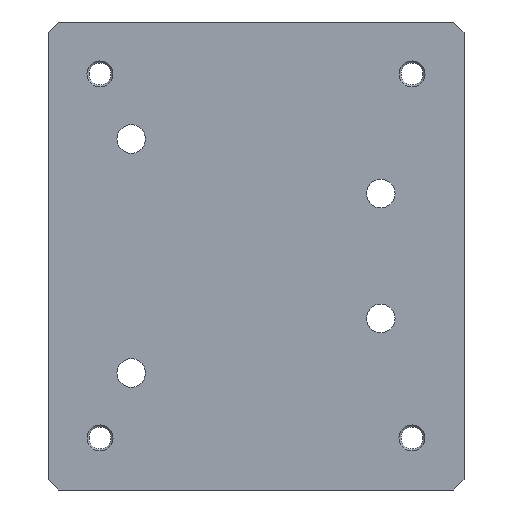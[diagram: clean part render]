
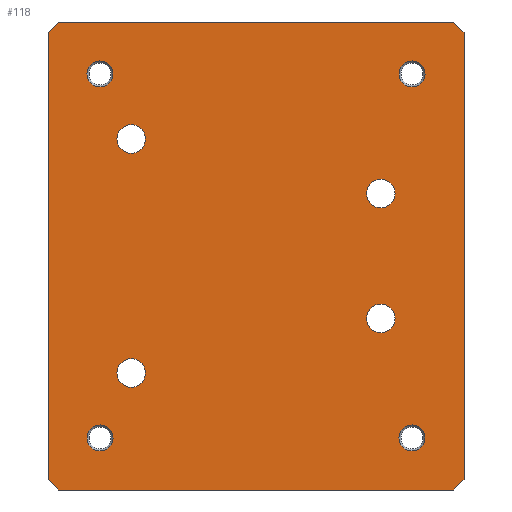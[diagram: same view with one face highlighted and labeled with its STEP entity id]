
A CAD part, front view. The second image highlights one B-rep face of the part: STEP entity #118.
In plain terms, the highlighted planar face has unit normal (0, -1, 0).
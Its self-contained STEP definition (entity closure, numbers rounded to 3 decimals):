
#46=PLANE('',#767);
#64=FACE_BOUND('',#208,.T.);
#65=FACE_BOUND('',#209,.T.);
#66=FACE_BOUND('',#210,.T.);
#67=FACE_BOUND('',#211,.T.);
#68=FACE_BOUND('',#212,.T.);
#69=FACE_BOUND('',#213,.T.);
#70=FACE_BOUND('',#214,.T.);
#71=FACE_BOUND('',#215,.T.);
#72=FACE_BOUND('',#216,.T.);
#118=ADVANCED_FACE('NONE',(#64,#65,#66,#67,#68,#69,#70,#71,#72),#46,.T.);
#208=EDGE_LOOP('',(#362));
#209=EDGE_LOOP('',(#363));
#210=EDGE_LOOP('',(#364));
#211=EDGE_LOOP('',(#365));
#212=EDGE_LOOP('',(#366,#367,#368,#369,#370,#371,#372,#373));
#213=EDGE_LOOP('',(#374,#375));
#214=EDGE_LOOP('',(#376,#377));
#215=EDGE_LOOP('',(#378,#379));
#216=EDGE_LOOP('',(#380,#381));
#271=CIRCLE('',#730,2.75);
#277=CIRCLE('',#739,2.75);
#283=CIRCLE('',#748,2.75);
#289=CIRCLE('',#757,2.75);
#290=CIRCLE('',#759,2.5);
#291=CIRCLE('',#760,2.5);
#292=CIRCLE('',#761,2.5);
#293=CIRCLE('',#762,2.5);
#294=CIRCLE('',#763,2.75);
#295=CIRCLE('',#764,2.75);
#296=CIRCLE('',#765,2.75);
#297=CIRCLE('',#766,2.75);
#362=ORIENTED_EDGE('',*,*,#594,.F.);
#363=ORIENTED_EDGE('',*,*,#595,.F.);
#364=ORIENTED_EDGE('',*,*,#596,.F.);
#365=ORIENTED_EDGE('',*,*,#597,.F.);
#366=ORIENTED_EDGE('',*,*,#598,.F.);
#367=ORIENTED_EDGE('',*,*,#599,.T.);
#368=ORIENTED_EDGE('',*,*,#600,.F.);
#369=ORIENTED_EDGE('',*,*,#601,.T.);
#370=ORIENTED_EDGE('',*,*,#602,.F.);
#371=ORIENTED_EDGE('',*,*,#603,.T.);
#372=ORIENTED_EDGE('',*,*,#604,.F.);
#373=ORIENTED_EDGE('',*,*,#605,.T.);
#374=ORIENTED_EDGE('',*,*,#606,.F.);
#375=ORIENTED_EDGE('',*,*,#592,.F.);
#376=ORIENTED_EDGE('',*,*,#607,.F.);
#377=ORIENTED_EDGE('',*,*,#582,.F.);
#378=ORIENTED_EDGE('',*,*,#608,.F.);
#379=ORIENTED_EDGE('',*,*,#572,.F.);
#380=ORIENTED_EDGE('',*,*,#609,.F.);
#381=ORIENTED_EDGE('',*,*,#562,.F.);
#496=VERTEX_POINT('',#1052);
#497=VERTEX_POINT('',#1054);
#504=VERTEX_POINT('',#1073);
#505=VERTEX_POINT('',#1075);
#512=VERTEX_POINT('',#1094);
#513=VERTEX_POINT('',#1096);
#520=VERTEX_POINT('',#1115);
#521=VERTEX_POINT('',#1117);
#522=VERTEX_POINT('',#1121);
#523=VERTEX_POINT('',#1123);
#524=VERTEX_POINT('',#1125);
#525=VERTEX_POINT('',#1127);
#526=VERTEX_POINT('',#1129);
#527=VERTEX_POINT('',#1130);
#528=VERTEX_POINT('',#1132);
#529=VERTEX_POINT('',#1134);
#530=VERTEX_POINT('',#1136);
#531=VERTEX_POINT('',#1138);
#532=VERTEX_POINT('',#1140);
#533=VERTEX_POINT('',#1142);
#562=EDGE_CURVE('NONE',#496,#497,#271,.T.);
#572=EDGE_CURVE('NONE',#504,#505,#277,.T.);
#582=EDGE_CURVE('NONE',#512,#513,#283,.T.);
#592=EDGE_CURVE('NONE',#520,#521,#289,.T.);
#594=EDGE_CURVE('',#522,#522,#290,.T.);
#595=EDGE_CURVE('',#523,#523,#291,.T.);
#596=EDGE_CURVE('',#524,#524,#292,.T.);
#597=EDGE_CURVE('',#525,#525,#293,.T.);
#598=EDGE_CURVE('NONE',#526,#527,#658,.T.);
#599=EDGE_CURVE('',#526,#528,#659,.T.);
#600=EDGE_CURVE('NONE',#529,#528,#660,.T.);
#601=EDGE_CURVE('',#529,#530,#661,.T.);
#602=EDGE_CURVE('NONE',#531,#530,#662,.T.);
#603=EDGE_CURVE('',#531,#532,#663,.T.);
#604=EDGE_CURVE('NONE',#533,#532,#664,.T.);
#605=EDGE_CURVE('',#533,#527,#665,.T.);
#606=EDGE_CURVE('NONE',#521,#520,#294,.T.);
#607=EDGE_CURVE('NONE',#513,#512,#295,.T.);
#608=EDGE_CURVE('NONE',#505,#504,#296,.T.);
#609=EDGE_CURVE('NONE',#497,#496,#297,.T.);
#658=LINE('',#1128,#698);
#659=LINE('',#1131,#699);
#660=LINE('',#1133,#700);
#661=LINE('',#1135,#701);
#662=LINE('',#1137,#702);
#663=LINE('',#1139,#703);
#664=LINE('',#1141,#704);
#665=LINE('',#1143,#705);
#698=VECTOR('',#911,1.);
#699=VECTOR('',#912,1.);
#700=VECTOR('',#913,1.);
#701=VECTOR('',#914,1.);
#702=VECTOR('',#915,1.);
#703=VECTOR('',#916,1.);
#704=VECTOR('',#917,1.);
#705=VECTOR('',#918,1.);
#730=AXIS2_PLACEMENT_3D('',#1053,#832,#833);
#739=AXIS2_PLACEMENT_3D('',#1074,#854,#855);
#748=AXIS2_PLACEMENT_3D('',#1095,#876,#877);
#757=AXIS2_PLACEMENT_3D('',#1116,#898,#899);
#759=AXIS2_PLACEMENT_3D('',#1120,#903,#904);
#760=AXIS2_PLACEMENT_3D('',#1122,#905,#906);
#761=AXIS2_PLACEMENT_3D('',#1124,#907,#908);
#762=AXIS2_PLACEMENT_3D('',#1126,#909,#910);
#763=AXIS2_PLACEMENT_3D('',#1144,#919,#920);
#764=AXIS2_PLACEMENT_3D('',#1145,#921,#922);
#765=AXIS2_PLACEMENT_3D('',#1146,#923,#924);
#766=AXIS2_PLACEMENT_3D('',#1147,#925,#926);
#767=AXIS2_PLACEMENT_3D('',#1148,#927,#928);
#832=DIRECTION('',(0.,-1.,0.));
#833=DIRECTION('',(0.,0.,-1.));
#854=DIRECTION('',(0.,-1.,0.));
#855=DIRECTION('',(0.,0.,-1.));
#876=DIRECTION('',(0.,-1.,0.));
#877=DIRECTION('',(0.,0.,-1.));
#898=DIRECTION('',(0.,-1.,0.));
#899=DIRECTION('',(0.,0.,-1.));
#903=DIRECTION('',(0.,-1.,0.));
#904=DIRECTION('',(0.,0.,-1.));
#905=DIRECTION('',(0.,-1.,0.));
#906=DIRECTION('',(0.,0.,-1.));
#907=DIRECTION('',(0.,-1.,0.));
#908=DIRECTION('',(0.,0.,-1.));
#909=DIRECTION('',(0.,-1.,0.));
#910=DIRECTION('',(0.,0.,-1.));
#911=DIRECTION('',(-1.,0.,0.));
#912=DIRECTION('',(0.707,0.,0.707));
#913=DIRECTION('',(0.,0.,-1.));
#914=DIRECTION('',(-0.707,0.,0.707));
#915=DIRECTION('',(1.,0.,0.));
#916=DIRECTION('',(-0.707,0.,-0.707));
#917=DIRECTION('',(0.,0.,1.));
#918=DIRECTION('',(0.707,0.,-0.707));
#919=DIRECTION('',(0.,-1.,0.));
#920=DIRECTION('',(0.,0.,-1.));
#921=DIRECTION('',(0.,-1.,0.));
#922=DIRECTION('',(0.,0.,-1.));
#923=DIRECTION('',(0.,-1.,0.));
#924=DIRECTION('',(0.,0.,-1.));
#925=DIRECTION('',(0.,-1.,0.));
#926=DIRECTION('',(0.,0.,-1.));
#927=DIRECTION('',(0.,-1.,0.));
#928=DIRECTION('',(0.,0.,-1.));
#1052=CARTESIAN_POINT('',(24.,0.,-14.75));
#1053=CARTESIAN_POINT('',(24.,0.,-12.));
#1054=CARTESIAN_POINT('',(24.,0.,-9.25));
#1073=CARTESIAN_POINT('',(-24.,0.,-25.25));
#1074=CARTESIAN_POINT('',(-24.,0.,-22.5));
#1075=CARTESIAN_POINT('',(-24.,0.,-19.75));
#1094=CARTESIAN_POINT('',(24.,0.,9.25));
#1095=CARTESIAN_POINT('',(24.,0.,12.));
#1096=CARTESIAN_POINT('',(24.,0.,14.75));
#1115=CARTESIAN_POINT('',(-24.,0.,19.75));
#1116=CARTESIAN_POINT('',(-24.,0.,22.5));
#1117=CARTESIAN_POINT('',(-24.,0.,25.25));
#1120=CARTESIAN_POINT('',(30.,0.,35.));
#1121=CARTESIAN_POINT('',(30.,0.,32.5));
#1122=CARTESIAN_POINT('',(30.,0.,-35.));
#1123=CARTESIAN_POINT('',(30.,0.,-37.5));
#1124=CARTESIAN_POINT('',(-30.,0.,35.));
#1125=CARTESIAN_POINT('',(-30.,0.,32.5));
#1126=CARTESIAN_POINT('',(-30.,0.,-35.));
#1127=CARTESIAN_POINT('',(-30.,0.,-37.5));
#1128=CARTESIAN_POINT('',(0.,0.,-45.));
#1129=CARTESIAN_POINT('',(38.,0.,-45.));
#1130=CARTESIAN_POINT('',(-38.,0.,-45.));
#1131=CARTESIAN_POINT('',(41.5,0.,-41.5));
#1132=CARTESIAN_POINT('',(40.,0.,-43.));
#1133=CARTESIAN_POINT('',(40.,0.,37.5));
#1134=CARTESIAN_POINT('',(40.,0.,43.));
#1135=CARTESIAN_POINT('',(41.5,0.,41.5));
#1136=CARTESIAN_POINT('',(38.,0.,45.));
#1137=CARTESIAN_POINT('',(0.,0.,45.));
#1138=CARTESIAN_POINT('',(-38.,0.,45.));
#1139=CARTESIAN_POINT('',(-41.5,0.,41.5));
#1140=CARTESIAN_POINT('',(-40.,0.,43.));
#1141=CARTESIAN_POINT('',(-40.,0.,37.5));
#1142=CARTESIAN_POINT('',(-40.,0.,-43.));
#1143=CARTESIAN_POINT('',(-41.5,0.,-41.5));
#1144=CARTESIAN_POINT('',(-24.,0.,22.5));
#1145=CARTESIAN_POINT('',(24.,0.,12.));
#1146=CARTESIAN_POINT('',(-24.,0.,-22.5));
#1147=CARTESIAN_POINT('',(24.,0.,-12.));
#1148=CARTESIAN_POINT('',(0.,0.,0.));
